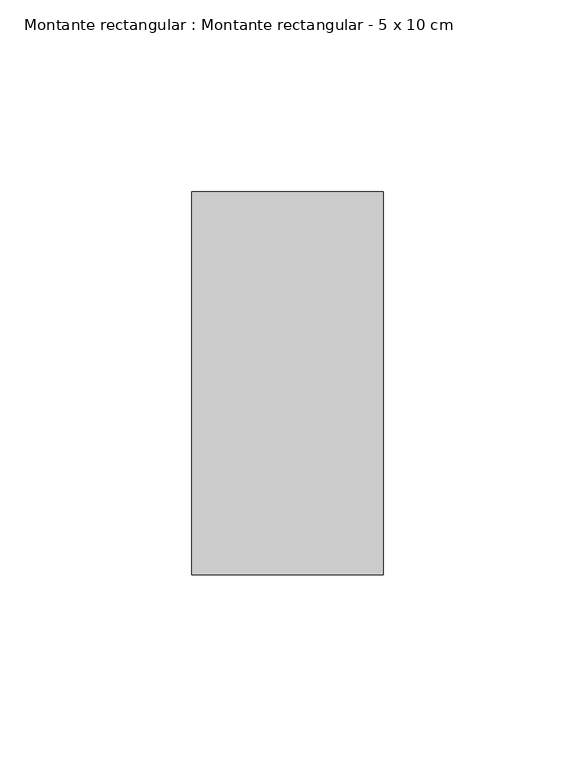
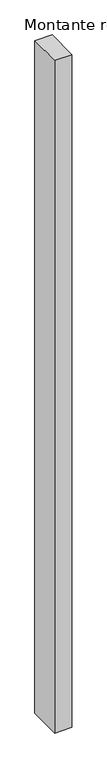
"""IFC4 building model written with IfcOpenShell, lengths in millimetres: member geometry, Montante rectangular : Montante rectangular - 5 x 10 cm."""

from ifc_helpers import new_model, si_unit, frame, origin, place, context, project, spatial, polyline, outline, extrude, source, transform, mapped, element, save


def montante_rectangular_montante_rectangular_5_x_10_cm_05186053(model_context):
    return source(origin(), model_context, "Body", "SweptSolid", [
        extrude(outline(polyline([(0.0, 50.0), (0.0, -50.0), (-50.0, -50.0), (-50.0, 50.0), (0.0, 50.0)])), frame((0.0, 0.0, -2071.1603928), z_axis=(0.0, 0.0, 1.0), x_axis=(1.0, 0.0, 0.0)), (0.0, 0.0, 1.0), 2071.1603928),
    ])


if __name__ == "__main__":
    model = new_model("IFC4")
    model_context = context("Model", 3, world=origin())
    ifc_project = project(units=[si_unit("LENGTHUNIT", "METRE", prefix="MILLI")], contexts=[model_context])
    site = spatial("IfcSite", under=ifc_project)
    building = spatial("IfcBuilding", under=site)
    placement = place(None, origin())
    montante_rectangular_montante_rectangular_5_x_10_cm_shape = montante_rectangular_montante_rectangular_5_x_10_cm_05186053(model_context)
    element("IfcMember", 1, ObjectType="Montante rectangular : Montante rectangular - 5 x 10 cm", at=placement, inside=building, context=model_context, shape_type="MappedRepresentation", body=[
        mapped(montante_rectangular_montante_rectangular_5_x_10_cm_shape, transform((0.0, 0.0, 0.0), x_axis=(1.0, 0.0, 0.0), y_axis=(0.0, 1.0, 0.0), z_axis=(0.0, 0.0, 1.0))),
    ])
    save(model, "model.ifc")
